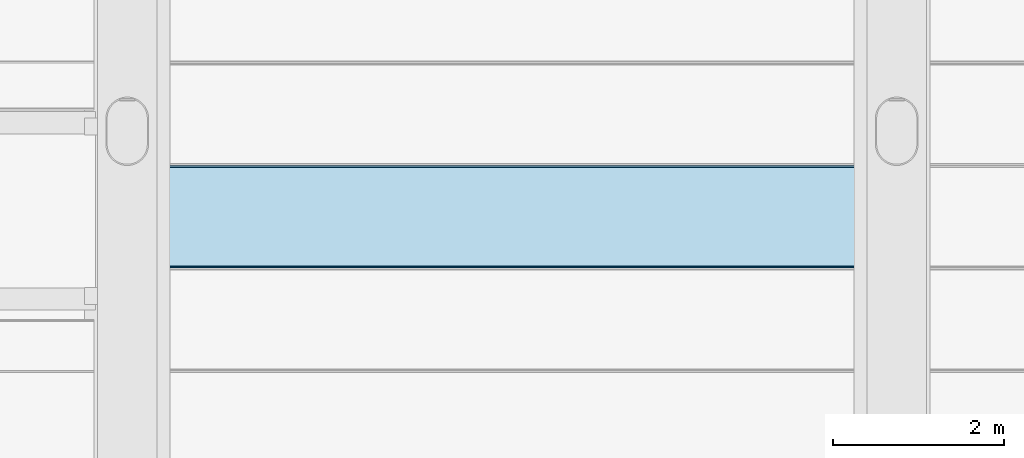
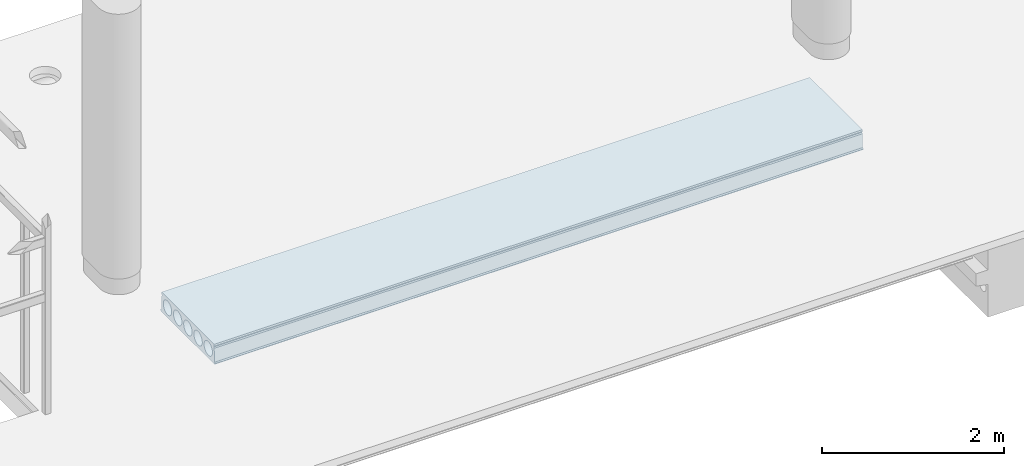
# One storey, part 10 of 34: 1 slab.
"""IFC2X3 building model written with IfcOpenShell, lengths in millimetres."""

from ifc_helpers import new_model, entity, si_unit, converted_unit, derived_unit, direction, frame, origin_with_axes, place, context, subcontext, project, spatial, polyline, outline, extrude, material, type_object, element, save


model = new_model("IFC2X3")

# Units and contexts
model_context = context("Model", 3, precision=0.01, world=frame((0.0, 4.29681676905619e-09, 0.0)), true_north=direction((4.01073788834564e-13, 1.0)))
plan_context = context("Plan", 3, precision=0.01, world=frame((0.0, 4.29681676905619e-09, 0.0)), true_north=direction((4.01073788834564e-13, 1.0)))
body_context = subcontext(model_context, "Body", "Model", "MODEL_VIEW")
ifc_project = project(units=[converted_unit("PLANEANGLEUNIT", "DEGREE", entity("IfcPositiveLengthMeasure", 0.0174532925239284), si_unit("PLANEANGLEUNIT", "RADIAN"), dimensions=[0, 0, 0, 0, 0, 0, 0]), si_unit("AREAUNIT", "SQUARE_METRE"), si_unit("LENGTHUNIT", "METRE", prefix="MILLI"), si_unit("MASSUNIT", "GRAM", prefix="KILO"), si_unit("POWERUNIT", "WATT"), si_unit("PRESSUREUNIT", "PASCAL"), si_unit("FORCEUNIT", "NEWTON", prefix="KILO"), si_unit("ELECTRICVOLTAGEUNIT", "VOLT"), si_unit("ELECTRICCURRENTUNIT", "AMPERE"), si_unit("THERMODYNAMICTEMPERATUREUNIT", "DEGREE_CELSIUS"), si_unit("TIMEUNIT", "SECOND"), si_unit("VOLUMEUNIT", "CUBIC_METRE"), derived_unit("LINEARVELOCITYUNIT", [(si_unit("LENGTHUNIT", "METRE"), 1), (si_unit("TIMEUNIT", "SECOND"), -1)]), derived_unit("VOLUMETRICFLOWRATEUNIT", [(si_unit("VOLUMEUNIT", "CUBIC_METRE"), 1), (si_unit("TIMEUNIT", "SECOND"), -1)]), derived_unit("THERMALTRANSMITTANCEUNIT", [(si_unit("POWERUNIT", "WATT"), 1), (si_unit("THERMODYNAMICTEMPERATUREUNIT", "KELVIN"), -1), (si_unit("AREAUNIT", "SQUARE_METRE"), -1)]), derived_unit("SOUNDPRESSUREUNIT", [(si_unit("PRESSUREUNIT", "PASCAL"), 1)])], contexts=[model_context, plan_context])

# Site, building, storey
site_placement = place(None, frame((0.0, -4.29681676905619e-09, 0.0), z_axis=(0.0, 0.0, 1.0), x_axis=(1.0, 0.0, 0.0)))
site = spatial("IfcSite", under=ifc_project, at=site_placement, Name="Gardermoen", CompositionType="ELEMENT")
building_placement = place(site_placement, frame((0.0, 4.29681676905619e-09, 0.0), z_axis=(0.0, 0.0, 1.0), x_axis=(1.0, 0.0, 0.0)))
building = spatial("IfcBuilding", under=site, at=building_placement, Name="TH", CompositionType="ELEMENT")
storey_placement = place(building_placement, origin_with_axes())
storey = spatial("IfcBuildingStorey", under=building, at=storey_placement, Name="F", CompositionType="ELEMENT", Elevation=0.0)

# Slab
ifc_material = material(Name="CONCRETE/C45/55")
slab_type = type_object("IfcSlabType", Name="HD265", PredefinedType="NOTDEFINED")
slab_placement = place(storey_placement, frame((898389.999766, 479299.989724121, 209897.5), z_axis=(0.0, 0.0, 1.0), x_axis=(1.0, 0.0, 0.0)))
element("IfcSlab", 1, at=slab_placement, inside=storey, type_object=slab_type, material=ifc_material, Name="HULLDEKKE", ObjectType="HD265", PredefinedType="FLOOR", context=body_context, shape_type="SweptSolid", body=[
    extrude(outline(polyline([(-583.380004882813, -132.5), (-600.0, -122.5), (-600.0, -112.5), (-585.0, -102.5), (-577.5, 77.5), (-570.0, 92.5), (-577.5, 107.5), (-577.5, 132.5), (577.5, 132.5), (577.5, 107.5), (570.0, 92.5), (577.5, 77.5), (585.0, -102.5), (600.0, -112.5), (600.0, -122.5), (583.380004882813, -132.5), (-583.380004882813, -132.5)]), holes=[polyline([(-539.238420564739, 15.2249996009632), (-540.184065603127, 7.63858945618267), (-540.5, 0.0), (-540.184065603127, -7.63858945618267), (-539.238420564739, -15.2249996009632), (-537.669524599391, -22.7074075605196), (-535.488094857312, -30.0347009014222), (-532.709032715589, -37.1568267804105), (-529.351321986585, -44.0251338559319), (-525.437899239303, -50.5927046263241), (-520.995497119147, -56.8146759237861), (-516.05446173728, -62.6485453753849), (-510.648545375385, -68.0544617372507), (-504.814675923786, -72.9954971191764), (-498.592704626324, -77.437899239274), (-492.025133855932, -81.3513219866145), (-485.15682678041, -84.7090327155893), (-478.034700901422, -87.4880948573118), (-470.707407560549, -89.6695245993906), (-463.224999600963, -91.2384205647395), (-455.638589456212, -92.1840656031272), (-448.0, -92.5), (-440.361410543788, -92.1840656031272), (-432.775000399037, -91.2384205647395), (-425.292592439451, -89.6695245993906), (-417.965299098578, -87.4880948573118), (-410.84317321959, -84.7090327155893), (-403.974866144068, -81.3513219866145), (-397.407295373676, -77.437899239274), (-391.185324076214, -72.9954971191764), (-385.351454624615, -68.0544617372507), (-379.94553826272, -62.6485453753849), (-375.004502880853, -56.8146759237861), (-370.562100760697, -50.5927046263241), (-366.648678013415, -44.0251338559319), (-363.290967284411, -37.1568267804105), (-360.511905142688, -30.0347009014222), (-358.330475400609, -22.7074075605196), (-356.761579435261, -15.2249996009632), (-355.815934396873, -7.63858945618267), (-355.5, 0.0), (-355.815934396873, 7.63858945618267), (-356.761579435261, 15.2249996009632), (-358.330475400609, 22.7074075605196), (-360.511905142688, 30.0347009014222), (-363.290967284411, 37.1568267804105), (-366.648678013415, 44.0251338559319), (-370.562100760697, 50.5927046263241), (-375.004502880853, 56.8146759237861), (-379.94553826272, 62.6485453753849), (-385.351454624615, 68.0544617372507), (-391.185324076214, 72.9954971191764), (-397.407295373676, 77.437899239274), (-403.974866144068, 81.3513219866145), (-410.84317321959, 84.7090327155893), (-417.965299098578, 87.4880948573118), (-425.292592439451, 89.6695245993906), (-432.775000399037, 91.2384205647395), (-440.361410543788, 92.1840656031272), (-448.0, 92.5), (-455.638589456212, 92.1840656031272), (-463.224999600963, 91.2384205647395), (-470.707407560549, 89.6695245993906), (-478.034700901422, 87.4880948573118), (-485.15682678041, 84.7090327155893), (-492.025133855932, 81.3513219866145), (-498.592704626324, 77.437899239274), (-504.814675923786, 72.9954971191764), (-510.648545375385, 68.0544617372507), (-516.05446173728, 62.6485453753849), (-520.995497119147, 56.8146759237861), (-525.437899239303, 50.5927046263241), (-529.351321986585, 44.0251338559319), (-532.709032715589, 37.1568267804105), (-535.488094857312, 30.0347009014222), (-537.669524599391, 22.7074075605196), (-539.238420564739, 15.2249996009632)]), polyline([(-315.238420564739, 15.2249996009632), (-316.184065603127, 7.63858945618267), (-316.5, 0.0), (-316.184065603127, -7.63858945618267), (-315.238420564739, -15.2249996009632), (-313.669524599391, -22.7074075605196), (-311.488094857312, -30.0347009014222), (-308.709032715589, -37.1568267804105), (-305.351321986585, -44.0251338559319), (-301.437899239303, -50.5927046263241), (-296.995497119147, -56.8146759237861), (-292.05446173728, -62.6485453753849), (-286.648545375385, -68.0544617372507), (-280.814675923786, -72.9954971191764), (-274.592704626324, -77.437899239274), (-268.025133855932, -81.3513219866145), (-261.15682678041, -84.7090327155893), (-254.034700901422, -87.4880948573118), (-246.707407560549, -89.6695245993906), (-239.224999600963, -91.2384205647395), (-231.638589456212, -92.1840656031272), (-224.0, -92.5), (-216.361410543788, -92.1840656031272), (-208.775000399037, -91.2384205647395), (-201.292592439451, -89.6695245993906), (-193.965299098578, -87.4880948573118), (-186.84317321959, -84.7090327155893), (-179.974866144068, -81.3513219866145), (-173.407295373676, -77.437899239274), (-167.185324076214, -72.9954971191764), (-161.351454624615, -68.0544617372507), (-155.94553826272, -62.6485453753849), (-151.004502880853, -56.8146759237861), (-146.562100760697, -50.5927046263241), (-142.648678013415, -44.0251338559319), (-139.290967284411, -37.1568267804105), (-136.511905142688, -30.0347009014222), (-134.330475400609, -22.7074075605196), (-132.761579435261, -15.2249996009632), (-131.815934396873, -7.63858945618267), (-131.5, 0.0), (-131.815934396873, 7.63858945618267), (-132.761579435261, 15.2249996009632), (-134.330475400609, 22.7074075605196), (-136.511905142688, 30.0347009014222), (-139.290967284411, 37.1568267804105), (-142.648678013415, 44.0251338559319), (-146.562100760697, 50.5927046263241), (-151.004502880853, 56.8146759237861), (-155.94553826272, 62.6485453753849), (-161.351454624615, 68.0544617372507), (-167.185324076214, 72.9954971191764), (-173.407295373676, 77.437899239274), (-179.974866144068, 81.3513219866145), (-186.84317321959, 84.7090327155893), (-193.965299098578, 87.4880948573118), (-201.292592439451, 89.6695245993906), (-208.775000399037, 91.2384205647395), (-216.361410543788, 92.1840656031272), (-224.0, 92.5), (-231.638589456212, 92.1840656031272), (-239.224999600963, 91.2384205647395), (-246.707407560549, 89.6695245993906), (-254.034700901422, 87.4880948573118), (-261.15682678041, 84.7090327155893), (-268.025133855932, 81.3513219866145), (-274.592704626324, 77.437899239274), (-280.814675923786, 72.9954971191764), (-286.648545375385, 68.0544617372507), (-292.05446173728, 62.6485453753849), (-296.995497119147, 56.8146759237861), (-301.437899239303, 50.5927046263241), (-305.351321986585, 44.0251338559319), (-308.709032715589, 37.1568267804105), (-311.488094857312, 30.0347009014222), (-313.669524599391, 22.7074075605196), (-315.238420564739, 15.2249996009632)]), polyline([(-91.2384205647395, 15.2249996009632), (-92.1840656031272, 7.63858945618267), (-92.5, 0.0), (-92.1840656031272, -7.63858945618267), (-91.2384205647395, -15.2249996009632), (-89.6695245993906, -22.7074075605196), (-87.4880948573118, -30.0347009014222), (-84.7090327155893, -37.1568267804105), (-81.3513219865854, -44.0251338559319), (-77.4378992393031, -50.5927046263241), (-72.9954971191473, -56.8146759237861), (-68.0544617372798, -62.6485453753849), (-62.6485453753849, -68.0544617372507), (-56.8146759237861, -72.9954971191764), (-50.5927046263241, -77.437899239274), (-44.0251338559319, -81.3513219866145), (-37.1568267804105, -84.7090327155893), (-30.0347009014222, -87.4880948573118), (-22.7074075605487, -89.6695245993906), (-15.2249996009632, -91.2384205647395), (-7.63858945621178, -92.1840656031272), (0.0, -92.5), (7.63858945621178, -92.1840656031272), (15.2249996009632, -91.2384205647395), (22.7074075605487, -89.6695245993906), (30.0347009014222, -87.4880948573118), (37.1568267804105, -84.7090327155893), (44.0251338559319, -81.3513219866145), (50.5927046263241, -77.437899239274), (56.8146759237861, -72.9954971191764), (62.6485453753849, -68.0544617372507), (68.0544617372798, -62.6485453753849), (72.9954971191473, -56.8146759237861), (77.4378992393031, -50.5927046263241), (81.3513219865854, -44.0251338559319), (84.7090327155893, -37.1568267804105), (87.4880948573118, -30.0347009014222), (89.6695245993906, -22.7074075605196), (91.2384205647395, -15.2249996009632), (92.1840656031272, -7.63858945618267), (92.5, 0.0), (92.1840656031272, 7.63858945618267), (91.2384205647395, 15.2249996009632), (89.6695245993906, 22.7074075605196), (87.4880948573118, 30.0347009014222), (84.7090327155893, 37.1568267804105), (81.3513219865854, 44.0251338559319), (77.4378992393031, 50.5927046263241), (72.9954971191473, 56.8146759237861), (68.0544617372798, 62.6485453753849), (62.6485453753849, 68.0544617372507), (56.8146759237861, 72.9954971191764), (50.5927046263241, 77.437899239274), (44.0251338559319, 81.3513219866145), (37.1568267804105, 84.7090327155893), (30.0347009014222, 87.4880948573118), (22.7074075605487, 89.6695245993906), (15.2249996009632, 91.2384205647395), (7.63858945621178, 92.1840656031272), (0.0, 92.5), (-7.63858945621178, 92.1840656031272), (-15.2249996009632, 91.2384205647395), (-22.7074075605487, 89.6695245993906), (-30.0347009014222, 87.4880948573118), (-37.1568267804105, 84.7090327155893), (-44.0251338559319, 81.3513219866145), (-50.5927046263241, 77.437899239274), (-56.8146759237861, 72.9954971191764), (-62.6485453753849, 68.0544617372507), (-68.0544617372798, 62.6485453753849), (-72.9954971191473, 56.8146759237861), (-77.4378992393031, 50.5927046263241), (-81.3513219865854, 44.0251338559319), (-84.7090327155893, 37.1568267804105), (-87.4880948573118, 30.0347009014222), (-89.6695245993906, 22.7074075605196), (-91.2384205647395, 15.2249996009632)]), polyline([(132.761579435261, 15.2249996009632), (131.815934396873, 7.63858945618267), (131.5, 0.0), (131.815934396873, -7.63858945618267), (132.761579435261, -15.2249996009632), (134.330475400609, -22.7074075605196), (136.511905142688, -30.0347009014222), (139.290967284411, -37.1568267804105), (142.648678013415, -44.0251338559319), (146.562100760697, -50.5927046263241), (151.004502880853, -56.8146759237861), (155.94553826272, -62.6485453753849), (161.351454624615, -68.0544617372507), (167.185324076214, -72.9954971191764), (173.407295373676, -77.437899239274), (179.974866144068, -81.3513219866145), (186.84317321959, -84.7090327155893), (193.965299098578, -87.4880948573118), (201.292592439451, -89.6695245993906), (208.775000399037, -91.2384205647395), (216.361410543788, -92.1840656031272), (224.0, -92.5), (231.638589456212, -92.1840656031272), (239.224999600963, -91.2384205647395), (246.707407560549, -89.6695245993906), (254.034700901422, -87.4880948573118), (261.15682678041, -84.7090327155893), (268.025133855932, -81.3513219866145), (274.592704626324, -77.437899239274), (280.814675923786, -72.9954971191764), (286.648545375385, -68.0544617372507), (292.05446173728, -62.6485453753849), (296.995497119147, -56.8146759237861), (301.437899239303, -50.5927046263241), (305.351321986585, -44.0251338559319), (308.709032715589, -37.1568267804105), (311.488094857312, -30.0347009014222), (313.669524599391, -22.7074075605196), (315.238420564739, -15.2249996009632), (316.184065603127, -7.63858945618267), (316.5, 0.0), (316.184065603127, 7.63858945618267), (315.238420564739, 15.2249996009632), (313.669524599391, 22.7074075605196), (311.488094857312, 30.0347009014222), (308.709032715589, 37.1568267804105), (305.351321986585, 44.0251338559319), (301.437899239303, 50.5927046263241), (296.995497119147, 56.8146759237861), (292.05446173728, 62.6485453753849), (286.648545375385, 68.0544617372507), (280.814675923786, 72.9954971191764), (274.592704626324, 77.437899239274), (268.025133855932, 81.3513219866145), (261.15682678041, 84.7090327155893), (254.034700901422, 87.4880948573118), (246.707407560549, 89.6695245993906), (239.224999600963, 91.2384205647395), (231.638589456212, 92.1840656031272), (224.0, 92.5), (216.361410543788, 92.1840656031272), (208.775000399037, 91.2384205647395), (201.292592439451, 89.6695245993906), (193.965299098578, 87.4880948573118), (186.84317321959, 84.7090327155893), (179.974866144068, 81.3513219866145), (173.407295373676, 77.437899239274), (167.185324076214, 72.9954971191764), (161.351454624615, 68.0544617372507), (155.94553826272, 62.6485453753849), (151.004502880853, 56.8146759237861), (146.562100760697, 50.5927046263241), (142.648678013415, 44.0251338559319), (139.290967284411, 37.1568267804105), (136.511905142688, 30.0347009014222), (134.330475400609, 22.7074075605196), (132.761579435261, 15.2249996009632)]), polyline([(356.761579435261, 15.2249996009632), (355.815934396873, 7.63858945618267), (355.5, 0.0), (355.815934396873, -7.63858945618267), (356.761579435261, -15.2249996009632), (358.330475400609, -22.7074075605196), (360.511905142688, -30.0347009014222), (363.290967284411, -37.1568267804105), (366.648678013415, -44.0251338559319), (370.562100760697, -50.5927046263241), (375.004502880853, -56.8146759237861), (379.94553826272, -62.6485453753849), (385.351454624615, -68.0544617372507), (391.185324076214, -72.9954971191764), (397.407295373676, -77.437899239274), (403.974866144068, -81.3513219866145), (410.84317321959, -84.7090327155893), (417.965299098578, -87.4880948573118), (425.292592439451, -89.6695245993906), (432.775000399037, -91.2384205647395), (440.361410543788, -92.1840656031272), (448.0, -92.5), (455.638589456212, -92.1840656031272), (463.224999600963, -91.2384205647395), (470.707407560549, -89.6695245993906), (478.034700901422, -87.4880948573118), (485.15682678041, -84.7090327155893), (492.025133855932, -81.3513219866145), (498.592704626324, -77.437899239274), (504.814675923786, -72.9954971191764), (510.648545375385, -68.0544617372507), (516.05446173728, -62.6485453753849), (520.995497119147, -56.8146759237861), (525.437899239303, -50.5927046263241), (529.351321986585, -44.0251338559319), (532.709032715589, -37.1568267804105), (535.488094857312, -30.0347009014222), (537.669524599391, -22.7074075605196), (539.238420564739, -15.2249996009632), (540.184065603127, -7.63858945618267), (540.5, 0.0), (540.184065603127, 7.63858945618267), (539.238420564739, 15.2249996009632), (537.669524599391, 22.7074075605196), (535.488094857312, 30.0347009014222), (532.709032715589, 37.1568267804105), (529.351321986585, 44.0251338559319), (525.437899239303, 50.5927046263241), (520.995497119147, 56.8146759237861), (516.05446173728, 62.6485453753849), (510.648545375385, 68.0544617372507), (504.814675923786, 72.9954971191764), (498.592704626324, 77.437899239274), (492.025133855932, 81.3513219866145), (485.15682678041, 84.7090327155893), (478.034700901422, 87.4880948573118), (470.707407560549, 89.6695245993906), (463.224999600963, 91.2384205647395), (455.638589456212, 92.1840656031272), (448.0, 92.5), (440.361410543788, 92.1840656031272), (432.775000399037, 91.2384205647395), (425.292592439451, 89.6695245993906), (417.965299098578, 87.4880948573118), (410.84317321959, 84.7090327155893), (403.974866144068, 81.3513219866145), (397.407295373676, 77.437899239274), (391.185324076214, 72.9954971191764), (385.351454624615, 68.0544617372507), (379.94553826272, 62.6485453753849), (375.004502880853, 56.8146759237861), (370.562100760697, 50.5927046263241), (366.648678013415, 44.0251338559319), (363.290967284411, 37.1568267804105), (360.511905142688, 30.0347009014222), (358.330475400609, 22.7074075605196), (356.761579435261, 15.2249996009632)])]), frame((8220.0, 0.0, 0.0), z_axis=(-1.0, 0.0, 6.61744490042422e-24), x_axis=(0.0, -1.0, 0.0)), (0.0, 0.0, 1.0), 8220.0),
])

save(model, "model.ifc")
